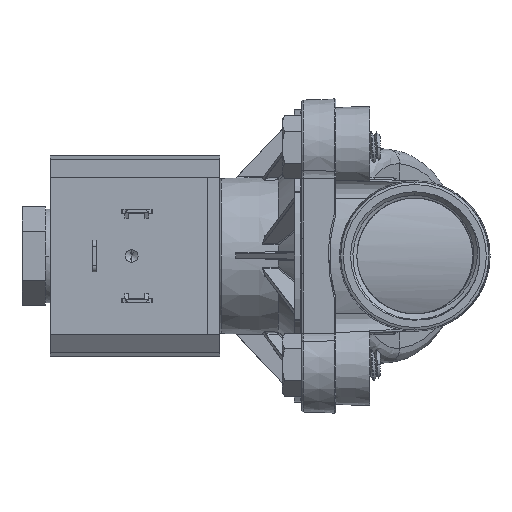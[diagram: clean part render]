
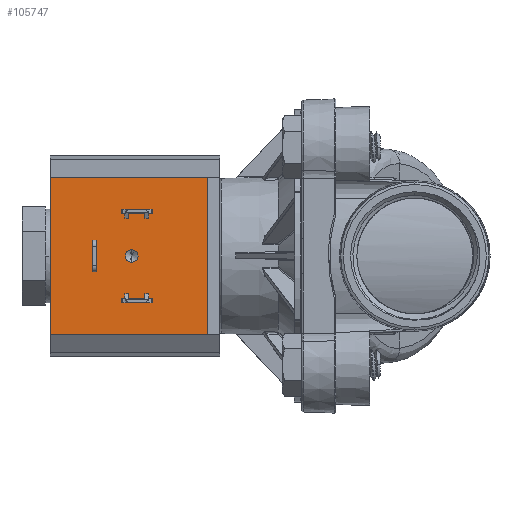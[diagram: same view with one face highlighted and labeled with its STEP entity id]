
A CAD part, left-side view. The second image highlights one B-rep face of the part: STEP entity #105747.
In plain terms, the highlighted planar face has unit normal (-1, 0, 0).
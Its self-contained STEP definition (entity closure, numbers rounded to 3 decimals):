
#58 = EDGE_CURVE ( 'NONE', #102620, #41664, #6562, .T. ) ;
#984 = VECTOR ( 'NONE', #78565, 1000. ) ;
#2114 = EDGE_LOOP ( 'NONE', ( #37422, #45512, #45476, #46975 ) ) ;
#2301 = ORIENTED_EDGE ( 'NONE', *, *, #33692, .F. ) ;
#3445 = ORIENTED_EDGE ( 'NONE', *, *, #102769, .T. ) ;
#6562 = LINE ( 'NONE', #14823, #99767 ) ;
#7059 = CARTESIAN_POINT ( 'NONE',  ( -24.915, 52.3, 9.424 ) ) ;
#7092 = CARTESIAN_POINT ( 'NONE',  ( -24.915, 45.95, -8.61 ) ) ;
#7385 = VECTOR ( 'NONE', #99927, 1000. ) ;
#7896 = VERTEX_POINT ( 'NONE', #7092 ) ;
#8344 = ORIENTED_EDGE ( 'NONE', *, *, #17590, .F. ) ;
#8355 = CARTESIAN_POINT ( 'NONE',  ( -24.915, 52.3, -8.61 ) ) ;
#8520 = VECTOR ( 'NONE', #74451, 1000. ) ;
#9956 = DIRECTION ( 'NONE',  ( 0., 0., 1. ) ) ;
#10986 = VECTOR ( 'NONE', #49776, 1000. ) ;
#13853 = VERTEX_POINT ( 'NONE', #38741 ) ;
#14286 = VECTOR ( 'NONE', #38591, 1000. ) ;
#14823 = CARTESIAN_POINT ( 'NONE',  ( -24.915, 66.676, -15.874 ) ) ;
#15857 = ORIENTED_EDGE ( 'NONE', *, *, #95676, .F. ) ;
#16236 = CIRCLE ( 'NONE', #79815, 1.264 ) ;
#17561 = EDGE_CURVE ( 'NONE', #44523, #19096, #107574, .T. ) ;
#17590 = EDGE_CURVE ( 'NONE', #50238, #13853, #16236, .T. ) ;
#17987 = DIRECTION ( 'NONE',  ( 0., -1., 0. ) ) ;
#18251 = ORIENTED_EDGE ( 'NONE', *, *, #58, .F. ) ;
#18355 = CIRCLE ( 'NONE', #32474, 1.264 ) ;
#18468 = DIRECTION ( 'NONE',  ( 0., -1., 0. ) ) ;
#19096 = VERTEX_POINT ( 'NONE', #97982 ) ;
#20082 = CARTESIAN_POINT ( 'NONE',  ( -24.915, 52.3, 8.611 ) ) ;
#20396 = CARTESIAN_POINT ( 'NONE',  ( -24.915, 34.926, 15.876 ) ) ;
#21876 = EDGE_LOOP ( 'NONE', ( #8344, #70281 ) ) ;
#24962 = DIRECTION ( 'NONE',  ( 0., 0., 1. ) ) ;
#24964 = CARTESIAN_POINT ( 'NONE',  ( -24.915, 45.95, 8.611 ) ) ;
#26297 = CARTESIAN_POINT ( 'NONE',  ( -24.915, 58.015, -3.212 ) ) ;
#28248 = CARTESIAN_POINT ( 'NONE',  ( -24.915, 34.926, -15.874 ) ) ;
#28383 = DIRECTION ( 'NONE',  ( 0., -1., 0. ) ) ;
#30041 = VERTEX_POINT ( 'NONE', #26297 ) ;
#31606 = CARTESIAN_POINT ( 'NONE',  ( -24.915, 34.926, -15.874 ) ) ;
#32140 = LINE ( 'NONE', #97915, #10986 ) ;
#32426 = FACE_BOUND ( 'NONE', #75800, .T. ) ;
#32474 = AXIS2_PLACEMENT_3D ( 'NONE', #50362, #90760, #24962 ) ;
#32690 = CARTESIAN_POINT ( 'NONE',  ( -24.915, 66.676, 15.876 ) ) ;
#32964 = CARTESIAN_POINT ( 'NONE',  ( -24.915, 34.926, -15.874 ) ) ;
#33473 = CARTESIAN_POINT ( 'NONE',  ( -24.915, 57.202, -3.212 ) ) ;
#33692 = EDGE_CURVE ( 'NONE', #34482, #102620, #102839, .T. ) ;
#33997 = ORIENTED_EDGE ( 'NONE', *, *, #70567, .T. ) ;
#34007 = LINE ( 'NONE', #85400, #109211 ) ;
#34482 = VERTEX_POINT ( 'NONE', #31606 ) ;
#37400 = VECTOR ( 'NONE', #28383, 1000. ) ;
#37422 = ORIENTED_EDGE ( 'NONE', *, *, #103090, .T. ) ;
#38193 = VERTEX_POINT ( 'NONE', #8355 ) ;
#38591 = DIRECTION ( 'NONE',  ( 0., 1., 0. ) ) ;
#38654 = VECTOR ( 'NONE', #18468, 1000. ) ;
#38741 = CARTESIAN_POINT ( 'NONE',  ( -24.915, 50.151, -1.263 ) ) ;
#39186 = DIRECTION ( 'NONE',  ( 0., 0., -1. ) ) ;
#40935 = EDGE_CURVE ( 'NONE', #101491, #57022, #107010, .T. ) ;
#41664 = VERTEX_POINT ( 'NONE', #32690 ) ;
#42528 = VERTEX_POINT ( 'NONE', #24964 ) ;
#43180 = VERTEX_POINT ( 'NONE', #50647 ) ;
#43196 = ORIENTED_EDGE ( 'NONE', *, *, #81769, .T. ) ;
#43610 = CARTESIAN_POINT ( 'NONE',  ( -24.915, 58.015, -3.212 ) ) ;
#44523 = VERTEX_POINT ( 'NONE', #33473 ) ;
#45476 = ORIENTED_EDGE ( 'NONE', *, *, #40935, .F. ) ;
#45512 = ORIENTED_EDGE ( 'NONE', *, *, #52058, .F. ) ;
#45601 = CARTESIAN_POINT ( 'NONE',  ( -24.915, 52.3, 9.424 ) ) ;
#46194 = DIRECTION ( 'NONE',  ( 0., 0., 1. ) ) ;
#46975 = ORIENTED_EDGE ( 'NONE', *, *, #81242, .T. ) ;
#47141 = CARTESIAN_POINT ( 'NONE',  ( -24.915, 52.3, 9.424 ) ) ;
#47344 = CARTESIAN_POINT ( 'NONE',  ( -24.915, 52.3, -9.423 ) ) ;
#47354 = ORIENTED_EDGE ( 'NONE', *, *, #17561, .F. ) ;
#47457 = CARTESIAN_POINT ( 'NONE',  ( -24.915, 58.015, 3.214 ) ) ;
#47463 = CARTESIAN_POINT ( 'NONE',  ( -24.915, 45.95, 9.424 ) ) ;
#48527 = CARTESIAN_POINT ( 'NONE',  ( -24.915, 58.015, 3.214 ) ) ;
#48994 = DIRECTION ( 'NONE',  ( 0., 0., 1. ) ) ;
#49776 = DIRECTION ( 'NONE',  ( 0., 0., 1. ) ) ;
#50110 = CARTESIAN_POINT ( 'NONE',  ( -24.915, 45.95, -9.423 ) ) ;
#50173 = EDGE_LOOP ( 'NONE', ( #47354, #15857, #43196, #54095 ) ) ;
#50238 = VERTEX_POINT ( 'NONE', #60861 ) ;
#50362 = CARTESIAN_POINT ( 'NONE',  ( -24.915, 50.151, 0.001 ) ) ;
#50647 = CARTESIAN_POINT ( 'NONE',  ( -24.915, 45.95, 9.424 ) ) ;
#51601 = VECTOR ( 'NONE', #39186, 1000. ) ;
#51799 = CARTESIAN_POINT ( 'NONE',  ( -24.915, 52.3, -8.61 ) ) ;
#52058 = EDGE_CURVE ( 'NONE', #57022, #42528, #34007, .T. ) ;
#54095 = ORIENTED_EDGE ( 'NONE', *, *, #63097, .T. ) ;
#54369 = LINE ( 'NONE', #47141, #37400 ) ;
#55058 = CARTESIAN_POINT ( 'NONE',  ( -24.915, 45.95, -9.423 ) ) ;
#55384 = CARTESIAN_POINT ( 'NONE',  ( -24.915, 66.676, -15.874 ) ) ;
#56987 = LINE ( 'NONE', #43610, #67509 ) ;
#57022 = VERTEX_POINT ( 'NONE', #20082 ) ;
#57130 = ORIENTED_EDGE ( 'NONE', *, *, #83282, .T. ) ;
#57845 = PLANE ( 'NONE',  #69560 ) ;
#58939 = DIRECTION ( 'NONE',  ( 0., 0., 1. ) ) ;
#59155 = EDGE_CURVE ( 'NONE', #61034, #41664, #63510, .T. ) ;
#59564 = LINE ( 'NONE', #51799, #89046 ) ;
#60117 = DIRECTION ( 'NONE',  ( 0., -1., 0. ) ) ;
#60737 = ORIENTED_EDGE ( 'NONE', *, *, #105652, .F. ) ;
#60861 = CARTESIAN_POINT ( 'NONE',  ( -24.915, 50.151, 1.264 ) ) ;
#61034 = VERTEX_POINT ( 'NONE', #104647 ) ;
#63097 = EDGE_CURVE ( 'NONE', #64724, #19096, #64642, .T. ) ;
#63363 = LINE ( 'NONE', #55058, #82020 ) ;
#63435 = DIRECTION ( 'NONE',  ( 0., -1., 0. ) ) ;
#63510 = LINE ( 'NONE', #20396, #14286 ) ;
#64642 = LINE ( 'NONE', #47457, #7385 ) ;
#64724 = VERTEX_POINT ( 'NONE', #48527 ) ;
#65189 = LINE ( 'NONE', #47463, #51601 ) ;
#67509 = VECTOR ( 'NONE', #9956, 1000. ) ;
#67799 = FACE_OUTER_BOUND ( 'NONE', #98907, .T. ) ;
#69560 = AXIS2_PLACEMENT_3D ( 'NONE', #32964, #91544, #58939 ) ;
#70281 = ORIENTED_EDGE ( 'NONE', *, *, #106497, .F. ) ;
#70567 = EDGE_CURVE ( 'NONE', #38193, #7896, #59564, .T. ) ;
#72823 = LINE ( 'NONE', #47344, #103019 ) ;
#73125 = DIRECTION ( 'NONE',  ( 0., 0., 1. ) ) ;
#73916 = DIRECTION ( 'NONE',  ( -1., 0., 0. ) ) ;
#74451 = DIRECTION ( 'NONE',  ( 0., 0., -1. ) ) ;
#75007 = CARTESIAN_POINT ( 'NONE',  ( -24.915, 57.202, -3.212 ) ) ;
#75800 = EDGE_LOOP ( 'NONE', ( #91088, #60737, #57130, #33997 ) ) ;
#76278 = VECTOR ( 'NONE', #48994, 1000. ) ;
#77681 = ORIENTED_EDGE ( 'NONE', *, *, #59155, .T. ) ;
#78565 = DIRECTION ( 'NONE',  ( 0., 1., 0. ) ) ;
#79815 = AXIS2_PLACEMENT_3D ( 'NONE', #98212, #73916, #92102 ) ;
#81242 = EDGE_CURVE ( 'NONE', #101491, #43180, #54369, .T. ) ;
#81769 = EDGE_CURVE ( 'NONE', #30041, #64724, #56987, .T. ) ;
#82020 = VECTOR ( 'NONE', #46194, 1000. ) ;
#83282 = EDGE_CURVE ( 'NONE', #87277, #38193, #91845, .T. ) ;
#85400 = CARTESIAN_POINT ( 'NONE',  ( -24.915, 52.3, 8.611 ) ) ;
#87126 = EDGE_CURVE ( 'NONE', #94272, #7896, #63363, .T. ) ;
#87277 = VERTEX_POINT ( 'NONE', #90945 ) ;
#89046 = VECTOR ( 'NONE', #60117, 1000. ) ;
#90760 = DIRECTION ( 'NONE',  ( -1., 0., 0. ) ) ;
#90945 = CARTESIAN_POINT ( 'NONE',  ( -24.915, 52.3, -9.423 ) ) ;
#91088 = ORIENTED_EDGE ( 'NONE', *, *, #87126, .F. ) ;
#91544 = DIRECTION ( 'NONE',  ( -1., 0., 0. ) ) ;
#91845 = LINE ( 'NONE', #107316, #101052 ) ;
#92102 = DIRECTION ( 'NONE',  ( 0., 0., 1. ) ) ;
#94168 = CARTESIAN_POINT ( 'NONE',  ( -24.915, 58.015, -3.212 ) ) ;
#94272 = VERTEX_POINT ( 'NONE', #50110 ) ;
#95676 = EDGE_CURVE ( 'NONE', #30041, #44523, #105166, .T. ) ;
#97915 = CARTESIAN_POINT ( 'NONE',  ( -24.915, 34.926, -15.874 ) ) ;
#97982 = CARTESIAN_POINT ( 'NONE',  ( -24.915, 57.202, 3.214 ) ) ;
#98212 = CARTESIAN_POINT ( 'NONE',  ( -24.915, 50.151, 0.001 ) ) ;
#98785 = DIRECTION ( 'NONE',  ( 0., 0., 1. ) ) ;
#98907 = EDGE_LOOP ( 'NONE', ( #18251, #2301, #3445, #77681 ) ) ;
#99767 = VECTOR ( 'NONE', #98785, 1000. ) ;
#99927 = DIRECTION ( 'NONE',  ( 0., -1., 0. ) ) ;
#101052 = VECTOR ( 'NONE', #73125, 1000. ) ;
#101491 = VERTEX_POINT ( 'NONE', #45601 ) ;
#102620 = VERTEX_POINT ( 'NONE', #55384 ) ;
#102769 = EDGE_CURVE ( 'NONE', #34482, #61034, #32140, .T. ) ;
#102839 = LINE ( 'NONE', #28248, #984 ) ;
#103019 = VECTOR ( 'NONE', #63435, 1000. ) ;
#103090 = EDGE_CURVE ( 'NONE', #43180, #42528, #65189, .T. ) ;
#104647 = CARTESIAN_POINT ( 'NONE',  ( -24.915, 34.926, 15.876 ) ) ;
#105166 = LINE ( 'NONE', #94168, #38654 ) ;
#105652 = EDGE_CURVE ( 'NONE', #87277, #94272, #72823, .T. ) ;
#105747 = ADVANCED_FACE ( 'Defeatured_0_1725', ( #108651, #109184, #67799, #108117, #32426 ), #57845, .T. ) ;
#106497 = EDGE_CURVE ( 'NONE', #13853, #50238, #18355, .T. ) ;
#107010 = LINE ( 'NONE', #7059, #8520 ) ;
#107316 = CARTESIAN_POINT ( 'NONE',  ( -24.915, 52.3, -9.423 ) ) ;
#107574 = LINE ( 'NONE', #75007, #76278 ) ;
#108117 = FACE_BOUND ( 'NONE', #50173, .T. ) ;
#108651 = FACE_BOUND ( 'NONE', #21876, .T. ) ;
#109184 = FACE_BOUND ( 'NONE', #2114, .T. ) ;
#109211 = VECTOR ( 'NONE', #17987, 1000. ) ;
